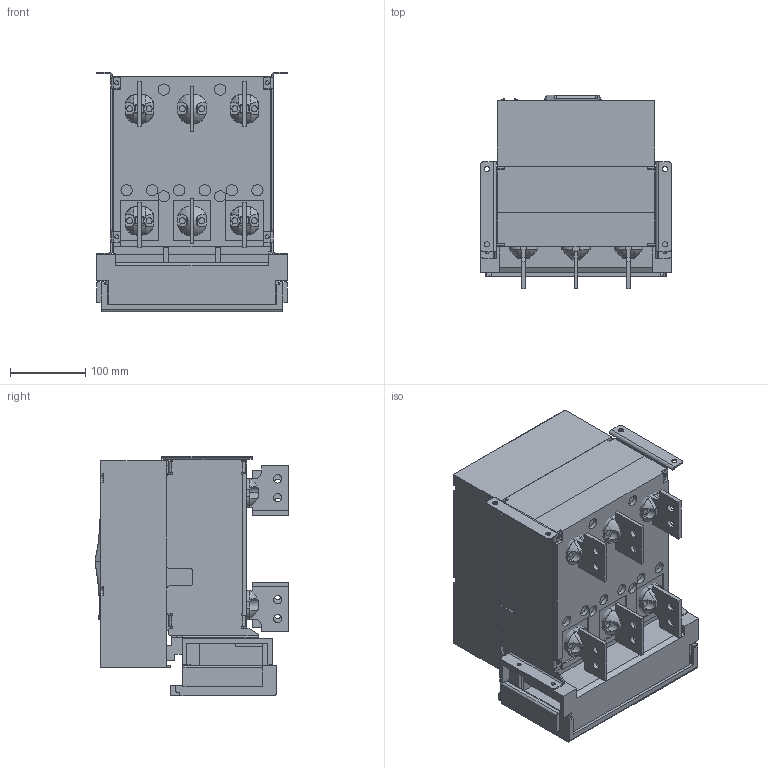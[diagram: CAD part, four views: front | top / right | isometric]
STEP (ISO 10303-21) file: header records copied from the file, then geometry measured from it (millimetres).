
FILE_DESCRIPTION(('CAx-IF Rec.Pracs.---Model Styling and Organization---1.2---2011-12-15','CAx-IF Rec.Pracs.---Geometric and Assembly Validation Properties---4.1---2014-06-16','CAx-IF Rec.Pracs.---PMI Polyline Presentation---2.0---2013-05-24'),'2;1');
FILE_NAME('YON AD-630-S1-F vertical connection.stp','2021-07-13T11:17:03+03:00',(''),(''),'STEP Interface 4.4 by CT CoreTechnologie','3D_Evolution4.4 by CT CoreTechnologie','');
FILE_SCHEMA(('AUTOMOTIVE_DESIGN { 1 0 10303 214 1 1 1 1 }'));
Length unit declared in the file: millimetre
Products named in the file (1): YON AD-630-S1-F vertical connection
Bounding box: 254 x 258 x 318.5 mm (x, y, z)
Surface area: 995496.5 mm2 (no closed solid volume)
Topology: 0 solids, 15 shells, 1093 faces, 3040 edges, 2006 vertices
Faces by surface type: plane 654, cylinder 340, bspline 99
Entity records: 69855 total; most frequent: CARTESIAN_POINT 9201, ORIENTED_EDGE 5994, DIRECTION 5612, PROPERTY_DEFINITION 4426, EDGE_CURVE 3000, REPRESENTATION 2225, GENERAL_PROPERTY 2225, PROPERTY_DEFINITION_REPRESENTATION 2225
